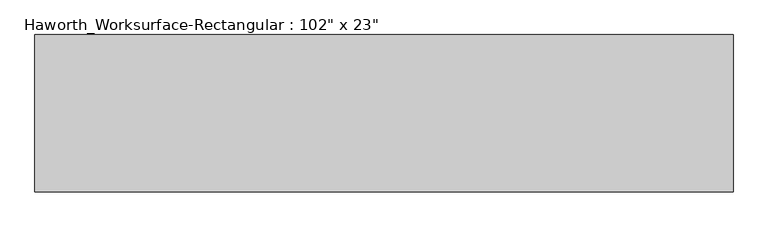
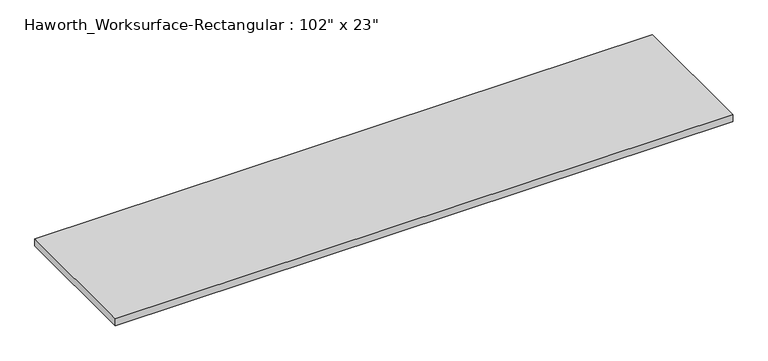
"""IFC4 building model written with IfcOpenShell, lengths in millimetres: furniture geometry."""

from ifc_helpers import new_model, si_unit, frame, origin, place, context, project, spatial, polyline, outline, extrude, source, transform, mapped, element, save


def furniture_870cb17b(model_context):
    return source(origin(), model_context, "Body", "SweptSolid", [
        extrude(outline(polyline([(1295.4, 292.1), (1295.4, -292.1), (-1295.4, -292.1), (-1295.4, 292.1), (1295.4, 292.1)])), frame((0.0, 0.0, 706.4375), z_axis=(0.0, 0.0, 1.0), x_axis=(1.0, 0.0, 0.0)), (0.0, 0.0, 1.0), 30.1625),
    ])


if __name__ == "__main__":
    model = new_model("IFC4")
    model_context = context("Model", 3, world=origin())
    ifc_project = project(units=[si_unit("LENGTHUNIT", "METRE", prefix="MILLI")], contexts=[model_context])
    site = spatial("IfcSite", under=ifc_project)
    building = spatial("IfcBuilding", under=site)
    placement = place(None, origin())
    furniture_shape = furniture_870cb17b(model_context)
    element("IfcFurniture", 1, ObjectType="Haworth_Worksurface-Rectangular : 102\" x 23\"", at=placement, inside=building, context=model_context, shape_type="MappedRepresentation", body=[
        mapped(furniture_shape, transform((0.0, 0.0, 0.0), x_axis=(1.0, 0.0, 0.0), y_axis=(0.0, 1.0, 0.0), z_axis=(0.0, 0.0, 1.0))),
    ])
    save(model, "model.ifc")
